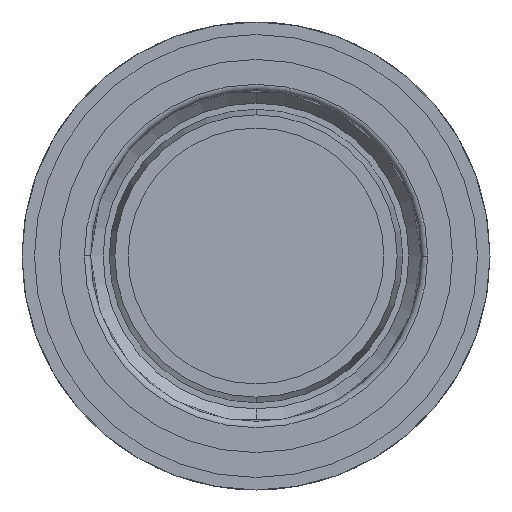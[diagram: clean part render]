
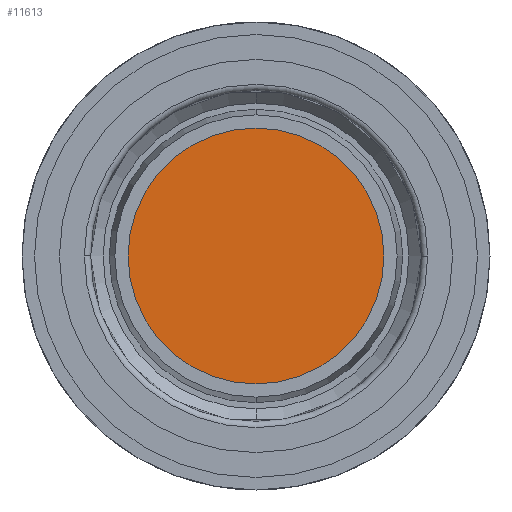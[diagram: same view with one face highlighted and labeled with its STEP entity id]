
A CAD part, front view. The second image highlights one B-rep face of the part: STEP entity #11613.
In plain terms, the highlighted planar face has unit normal (0, -1, 0).
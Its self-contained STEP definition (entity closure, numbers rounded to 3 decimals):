
#621 = VERTEX_POINT ( 'NONE', #3311 ) ;
#671 = ORIENTED_EDGE ( 'NONE', *, *, #15566, .F. ) ;
#1509 = EDGE_CURVE ( 'NONE', #621, #21747, #21329, .T. ) ;
#2448 = CARTESIAN_POINT ( 'NONE',  ( 0., -2., 0. ) ) ;
#2587 = EDGE_LOOP ( 'NONE', ( #671, #6394 ) ) ;
#3311 = CARTESIAN_POINT ( 'NONE',  ( 0., -2., -20.5 ) ) ;
#3460 = CARTESIAN_POINT ( 'NONE',  ( 0., -2., 20.5 ) ) ;
#4221 = AXIS2_PLACEMENT_3D ( 'NONE', #4938, #21636, #10525 ) ;
#4363 = DIRECTION ( 'NONE',  ( 0., 0., 1. ) ) ;
#4938 = CARTESIAN_POINT ( 'NONE',  ( 0., -2., 0. ) ) ;
#5501 = DIRECTION ( 'NONE',  ( 0., 1., 0. ) ) ;
#6210 = FACE_OUTER_BOUND ( 'NONE', #2587, .T. ) ;
#6394 = ORIENTED_EDGE ( 'NONE', *, *, #1509, .F. ) ;
#10525 = DIRECTION ( 'NONE',  ( 0., 0., 1. ) ) ;
#10902 = AXIS2_PLACEMENT_3D ( 'NONE', #2448, #15465, #4363 ) ;
#11613 = ADVANCED_FACE ( 'NONE', ( #6210 ), #23451, .F. ) ;
#12986 = AXIS2_PLACEMENT_3D ( 'NONE', #16608, #5501, #18460 ) ;
#15465 = DIRECTION ( 'NONE',  ( 0., 1., 0. ) ) ;
#15566 = EDGE_CURVE ( 'NONE', #21747, #621, #22805, .T. ) ;
#16608 = CARTESIAN_POINT ( 'NONE',  ( 0., -2., 0. ) ) ;
#18460 = DIRECTION ( 'NONE',  ( 0., 0., 1. ) ) ;
#21329 = CIRCLE ( 'NONE', #10902, 20.5 ) ;
#21636 = DIRECTION ( 'NONE',  ( 0., 1., 0. ) ) ;
#21747 = VERTEX_POINT ( 'NONE', #3460 ) ;
#22805 = CIRCLE ( 'NONE', #12986, 20.5 ) ;
#23451 = PLANE ( 'NONE',  #4221 ) ;
